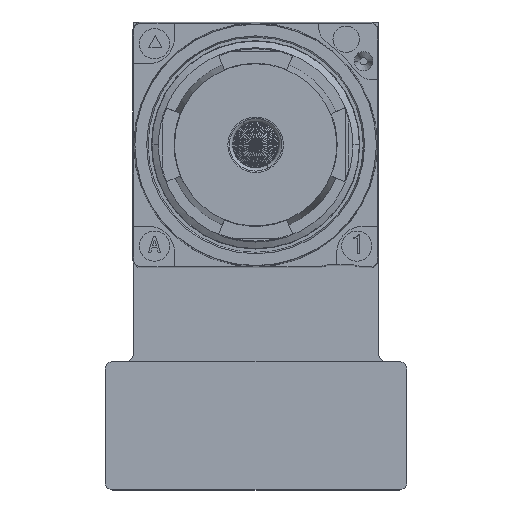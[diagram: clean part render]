
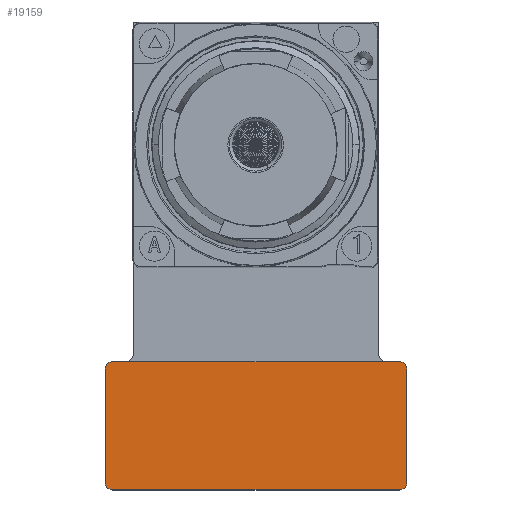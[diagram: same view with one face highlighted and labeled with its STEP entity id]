
A CAD part, top view. The second image highlights one B-rep face of the part: STEP entity #19159.
In plain terms, the highlighted planar face has unit normal (0, 0, 1).
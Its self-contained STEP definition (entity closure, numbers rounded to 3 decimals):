
#10159 = AXIS2_PLACEMENT_3D ( 'NONE', #11802, #11808, #11809 ) ;
#10330 = AXIS2_PLACEMENT_3D ( 'NONE', #14847, #14856, #14857 ) ;
#10332 = AXIS2_PLACEMENT_3D ( 'NONE', #14852, #14859, #14860 ) ;
#10333 = AXIS2_PLACEMENT_3D ( 'NONE', #14858, #14865, #14866 ) ;
#10334 = AXIS2_PLACEMENT_3D ( 'NONE', #14855, #14863, #14864 ) ;
#10754 = FACE_OUTER_BOUND ( 'NONE', #25899, .T. ) ;
#11799 = PLANE ( 'NONE',  #10159 ) ;
#11802 = CARTESIAN_POINT ( 'NONE',  ( -4., -5.75, 0.4 ) ) ;
#11808 = DIRECTION ( 'NONE',  ( 0., 0., -1. ) ) ;
#11809 = DIRECTION ( 'NONE',  ( -1., 0., 0. ) ) ;
#13662 = LINE ( 'NONE', #14756, #13670 ) ;
#13670 = VECTOR ( 'NONE', #14774, 1000. ) ;
#13680 = LINE ( 'NONE', #14783, #13681 ) ;
#13681 = VECTOR ( 'NONE', #14784, 1000. ) ;
#13682 = LINE ( 'NONE', #14785, #13683 ) ;
#13683 = VECTOR ( 'NONE', #14786, 1000. ) ;
#13698 = LINE ( 'NONE', #14801, #13699 ) ;
#13699 = VECTOR ( 'NONE', #14802, 1000. ) ;
#13737 = CIRCLE ( 'NONE', #10330, 0.2 ) ;
#13738 = CIRCLE ( 'NONE', #10332, 0.2 ) ;
#13741 = CIRCLE ( 'NONE', #10334, 0.2 ) ;
#13742 = CIRCLE ( 'NONE', #10333, 0.2 ) ;
#14756 = CARTESIAN_POINT ( 'NONE',  ( -4., -9.15, 0.4 ) ) ;
#14774 = DIRECTION ( 'NONE',  ( 0., -1., 0. ) ) ;
#14783 = CARTESIAN_POINT ( 'NONE',  ( -4., -9.15, 0.4 ) ) ;
#14784 = DIRECTION ( 'NONE',  ( 1., 0., 0. ) ) ;
#14785 = CARTESIAN_POINT ( 'NONE',  ( 4., -9.15, 0.4 ) ) ;
#14786 = DIRECTION ( 'NONE',  ( 0., 1., 0. ) ) ;
#14801 = CARTESIAN_POINT ( 'NONE',  ( -4., -5.75, 0.4 ) ) ;
#14802 = DIRECTION ( 'NONE',  ( -1., 0., 0. ) ) ;
#14847 = CARTESIAN_POINT ( 'NONE',  ( 3.8, -5.95, 0.4 ) ) ;
#14852 = CARTESIAN_POINT ( 'NONE',  ( -3.8, -5.95, 0.4 ) ) ;
#14855 = CARTESIAN_POINT ( 'NONE',  ( -3.8, -8.95, 0.4 ) ) ;
#14856 = DIRECTION ( 'NONE',  ( 0., 0., 1. ) ) ;
#14857 = DIRECTION ( 'NONE',  ( -1., 0., 0. ) ) ;
#14858 = CARTESIAN_POINT ( 'NONE',  ( 3.8, -8.95, 0.4 ) ) ;
#14859 = DIRECTION ( 'NONE',  ( 0., 0., 1. ) ) ;
#14860 = DIRECTION ( 'NONE',  ( -1., 0., 0. ) ) ;
#14863 = DIRECTION ( 'NONE',  ( 0., 0., 1. ) ) ;
#14864 = DIRECTION ( 'NONE',  ( -1., 0., 0. ) ) ;
#14865 = DIRECTION ( 'NONE',  ( 0., 0., 1. ) ) ;
#14866 = DIRECTION ( 'NONE',  ( -1., 0., 0. ) ) ;
#15402 = CARTESIAN_POINT ( 'NONE',  ( -4., -8.95, 0.4 ) ) ;
#15403 = CARTESIAN_POINT ( 'NONE',  ( -4., -5.95, 0.4 ) ) ;
#15406 = CARTESIAN_POINT ( 'NONE',  ( 3.8, -9.15, 0.4 ) ) ;
#15407 = CARTESIAN_POINT ( 'NONE',  ( -3.8, -9.15, 0.4 ) ) ;
#15410 = CARTESIAN_POINT ( 'NONE',  ( 4., -5.95, 0.4 ) ) ;
#15411 = CARTESIAN_POINT ( 'NONE',  ( 4., -8.95, 0.4 ) ) ;
#15416 = CARTESIAN_POINT ( 'NONE',  ( -3.8, -5.75, 0.4 ) ) ;
#15417 = CARTESIAN_POINT ( 'NONE',  ( 3.8, -5.75, 0.4 ) ) ;
#19159 = ADVANCED_FACE ( 'NONE', ( #10754 ), #11799, .F. ) ;
#24273 = EDGE_CURVE ( 'NONE', #25539, #25538, #13662, .T. ) ;
#24278 = EDGE_CURVE ( 'NONE', #25543, #25542, #13680, .T. ) ;
#24279 = EDGE_CURVE ( 'NONE', #25547, #25546, #13682, .T. ) ;
#24287 = EDGE_CURVE ( 'NONE', #25553, #25552, #13698, .T. ) ;
#24310 = EDGE_CURVE ( 'NONE', #25546, #25553, #13737, .T. ) ;
#24311 = EDGE_CURVE ( 'NONE', #25552, #25539, #13738, .T. ) ;
#24313 = EDGE_CURVE ( 'NONE', #25538, #25543, #13741, .T. ) ;
#24314 = EDGE_CURVE ( 'NONE', #25542, #25547, #13742, .T. ) ;
#25538 = VERTEX_POINT ( 'NONE', #15402 ) ;
#25539 = VERTEX_POINT ( 'NONE', #15403 ) ;
#25542 = VERTEX_POINT ( 'NONE', #15406 ) ;
#25543 = VERTEX_POINT ( 'NONE', #15407 ) ;
#25546 = VERTEX_POINT ( 'NONE', #15410 ) ;
#25547 = VERTEX_POINT ( 'NONE', #15411 ) ;
#25552 = VERTEX_POINT ( 'NONE', #15416 ) ;
#25553 = VERTEX_POINT ( 'NONE', #15417 ) ;
#25899 = EDGE_LOOP ( 'NONE', ( #26363, #26365, #26367, #26369, #26370, #26372, #26374, #26376 ) ) ;
#26363 = ORIENTED_EDGE ( 'NONE', *, *, #24279, .T. ) ;
#26365 = ORIENTED_EDGE ( 'NONE', *, *, #24310, .T. ) ;
#26367 = ORIENTED_EDGE ( 'NONE', *, *, #24287, .T. ) ;
#26369 = ORIENTED_EDGE ( 'NONE', *, *, #24311, .T. ) ;
#26370 = ORIENTED_EDGE ( 'NONE', *, *, #24273, .T. ) ;
#26372 = ORIENTED_EDGE ( 'NONE', *, *, #24313, .T. ) ;
#26374 = ORIENTED_EDGE ( 'NONE', *, *, #24278, .T. ) ;
#26376 = ORIENTED_EDGE ( 'NONE', *, *, #24314, .T. ) ;
